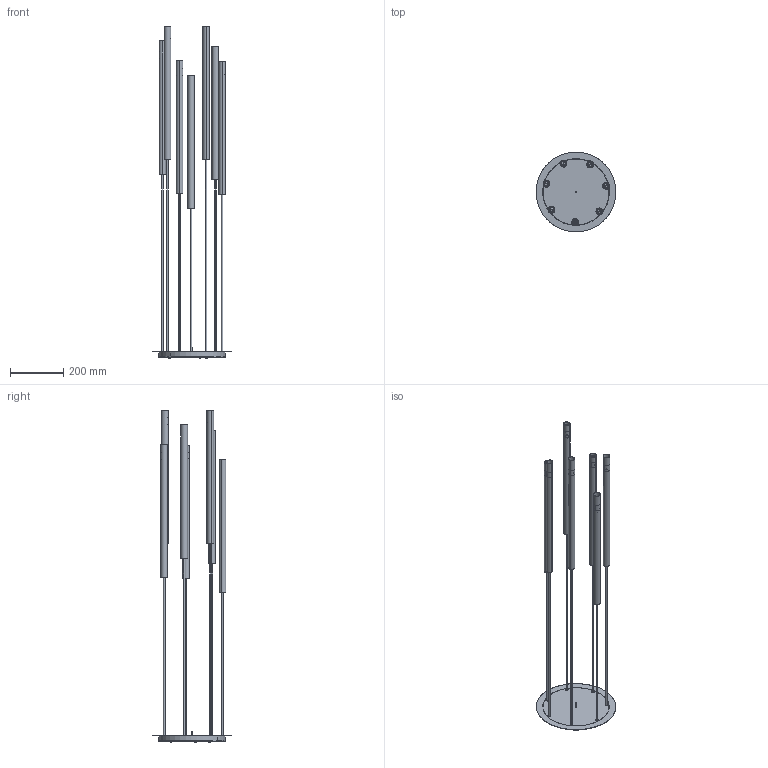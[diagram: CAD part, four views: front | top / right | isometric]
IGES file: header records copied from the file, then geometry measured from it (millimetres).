
Start section: SolidWorks IGES file using analytic representation for surfaces
Global section: file name: Z:\Modele 3D_WWW\_KOLEKCJE_WWW\LASER\LASER-VII-8918-8920-8921\LASER-VII-8918-8920-8921.IGS; native system: SolidWorks 2020; preprocessor: SolidWorks 2020; author: gabriela.tworek; date: 210514.104554; units: millimetre
Bounding box: 299.85 x 299.85 x 1247.43 mm (x, y, z)
Surface area: 959769.3 mm2 (no closed solid volume)
Topology: 0 solids, 0 shells, 994 faces, 13464 edges, 13436 vertices
Faces by surface type: revolution 533, bspline 461
